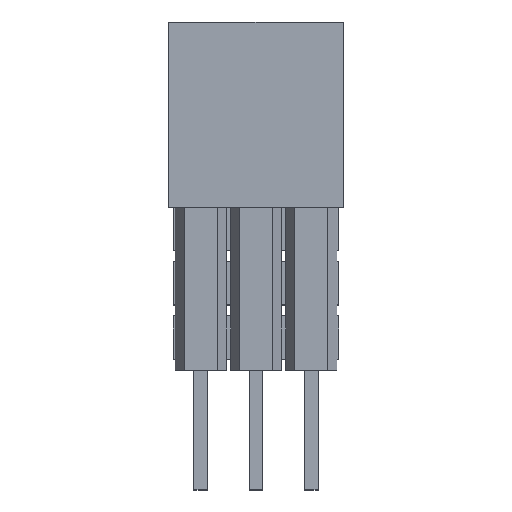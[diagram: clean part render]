
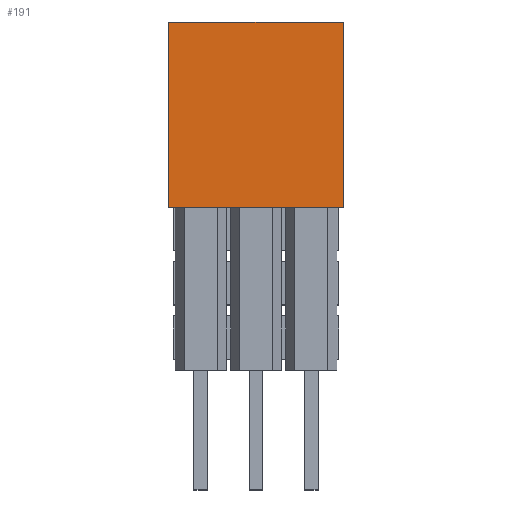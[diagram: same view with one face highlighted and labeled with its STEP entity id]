
A CAD part, top view. The second image highlights one B-rep face of the part: STEP entity #191.
In plain terms, the highlighted planar face has unit normal (0, 0, 1).
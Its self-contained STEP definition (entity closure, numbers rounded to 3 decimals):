
#191=ADVANCED_FACE('',(#517),#357,.T.);
#357=PLANE('',#3564);
#517=FACE_OUTER_BOUND('',#699,.T.);
#699=EDGE_LOOP('',(#1435,#1436,#1437,#1438));
#1435=ORIENTED_EDGE('',*,*,#2350,.T.);
#1436=ORIENTED_EDGE('',*,*,#2351,.F.);
#1437=ORIENTED_EDGE('',*,*,#2352,.T.);
#1438=ORIENTED_EDGE('',*,*,#2348,.T.);
#1923=VERTEX_POINT('',#5093);
#1924=VERTEX_POINT('',#5095);
#1925=VERTEX_POINT('',#5099);
#1926=VERTEX_POINT('',#5101);
#2348=EDGE_CURVE('',#1924,#1923,#2828,.T.);
#2350=EDGE_CURVE('',#1923,#1925,#2830,.T.);
#2351=EDGE_CURVE('',#1926,#1925,#2831,.T.);
#2352=EDGE_CURVE('',#1926,#1924,#2832,.T.);
#2828=LINE('',#5094,#3308);
#2830=LINE('',#5098,#3310);
#2831=LINE('',#5100,#3311);
#2832=LINE('',#5102,#3312);
#3308=VECTOR('',#4187,1.);
#3310=VECTOR('',#4191,1.);
#3311=VECTOR('',#4192,1.);
#3312=VECTOR('',#4193,1.);
#3564=AXIS2_PLACEMENT_3D('',#5103,#4194,#4195);
#4187=DIRECTION('',(1.,0.,0.));
#4191=DIRECTION('',(0.,1.,0.));
#4192=DIRECTION('',(1.,0.,0.));
#4193=DIRECTION('',(0.,-1.,0.));
#4194=DIRECTION('',(0.,0.,1.));
#4195=DIRECTION('',(-1.,0.,0.));
#5093=CARTESIAN_POINT('',(-4.68,0.,0.02));
#5094=CARTESIAN_POINT('',(-38.1,0.,0.02));
#5095=CARTESIAN_POINT('',(-12.7,0.,0.02));
#5098=CARTESIAN_POINT('',(-4.68,0.,0.02));
#5099=CARTESIAN_POINT('',(-4.68,8.5,0.02));
#5100=CARTESIAN_POINT('',(-38.1,8.5,0.02));
#5101=CARTESIAN_POINT('',(-12.7,8.5,0.02));
#5102=CARTESIAN_POINT('',(-12.7,0.,0.02));
#5103=CARTESIAN_POINT('',(-38.1,0.,0.02));
